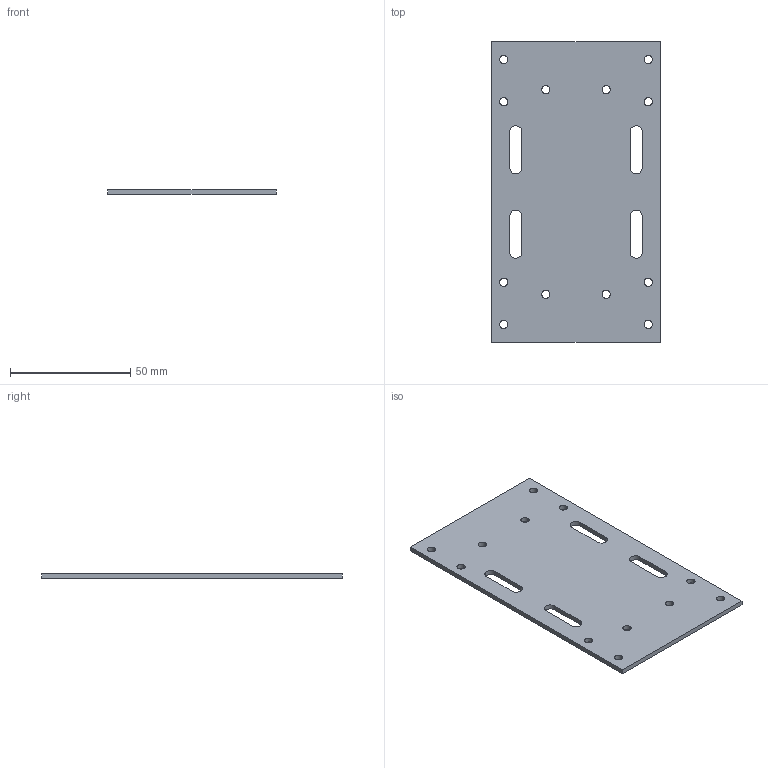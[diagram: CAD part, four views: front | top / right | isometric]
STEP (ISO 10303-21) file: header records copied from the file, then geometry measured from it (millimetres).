
FILE_DESCRIPTION (( 'STEP AP203' ), '1' );
FILE_NAME ('02_Tam_nhom_duoi.STEP', '2026-11-13T15:48:55', ( '' ), ( '' ), 'SwSTEP 2.0', 'SolidWorks 2026', '' );
FILE_SCHEMA (( 'CONFIG_CONTROL_DESIGN' ));
Length unit declared in the file: metre
Products named in the file (1): 02_Tam_nhom_duoi
Bounding box: 70 x 125 x 2 mm (x, y, z)
Volume: 16525 mm3; surface area: 17927 mm2
Topology: 1 solids, 1 shells, 46 faces, 132 edges, 88 vertices
Faces by surface type: cylinder 32, plane 14
Entity records: 2017 total; most frequent: CARTESIAN_POINT 675, ORIENTED_EDGE 264, DIRECTION 242, EDGE_CURVE 132, VERTEX_POINT 88, AXIS2_PLACEMENT_3D 87, EDGE_LOOP 78, VECTOR 68
